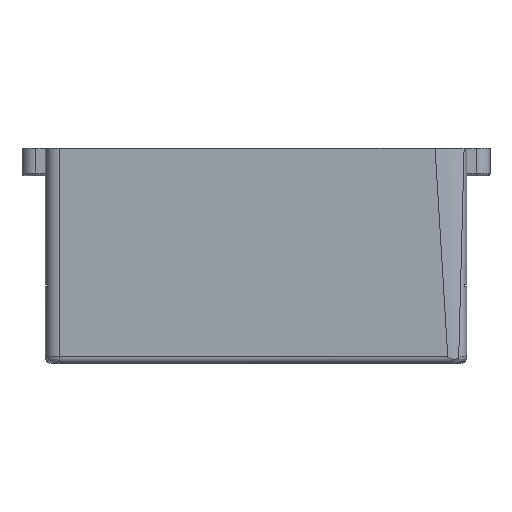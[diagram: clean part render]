
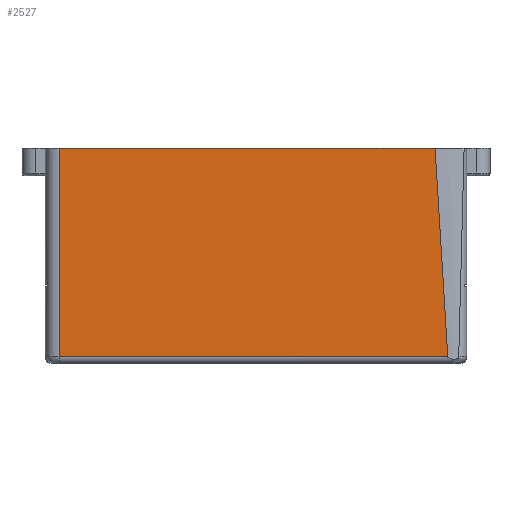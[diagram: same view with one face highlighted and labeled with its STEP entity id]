
A CAD part, top view. The second image highlights one B-rep face of the part: STEP entity #2527.
In plain terms, the highlighted planar face has unit normal (0, 0, 1).
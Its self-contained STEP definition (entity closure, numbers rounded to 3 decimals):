
#303=FACE_OUTER_BOUND('',#451,.T.);
#451=EDGE_LOOP('',(#2145,#2146,#2147,#2148,#2149));
#639=LINE('',#4010,#883);
#672=LINE('',#4135,#916);
#691=LINE('',#4183,#935);
#692=LINE('',#4185,#936);
#693=LINE('',#4186,#937);
#883=VECTOR('',#3249,10.);
#916=VECTOR('',#3364,10.);
#935=VECTOR('',#3417,10.);
#936=VECTOR('',#3418,10.);
#937=VECTOR('',#3419,10.);
#1147=VERTEX_POINT('',#4008);
#1148=VERTEX_POINT('',#4009);
#1186=VERTEX_POINT('',#4121);
#1187=VERTEX_POINT('',#4134);
#1200=VERTEX_POINT('',#4184);
#1453=EDGE_CURVE('',#1147,#1148,#639,.T.);
#1509=EDGE_CURVE('',#1186,#1187,#672,.T.);
#1534=EDGE_CURVE('',#1187,#1148,#691,.T.);
#1535=EDGE_CURVE('',#1186,#1200,#692,.T.);
#1536=EDGE_CURVE('',#1200,#1147,#693,.T.);
#2145=ORIENTED_EDGE('',*,*,#1453,.T.);
#2146=ORIENTED_EDGE('',*,*,#1534,.F.);
#2147=ORIENTED_EDGE('',*,*,#1509,.F.);
#2148=ORIENTED_EDGE('',*,*,#1535,.T.);
#2149=ORIENTED_EDGE('',*,*,#1536,.T.);
#2407=PLANE('',#2759);
#2527=ADVANCED_FACE('',(#303),#2407,.T.);
#2759=AXIS2_PLACEMENT_3D('',#4182,#3415,#3416);
#3249=DIRECTION('',(-1.,0.,0.));
#3364=DIRECTION('',(-1.,0.,0.));
#3415=DIRECTION('center_axis',(0.,0.,1.));
#3416=DIRECTION('ref_axis',(1.,0.,0.));
#3417=DIRECTION('',(0.,1.,0.));
#3418=DIRECTION('',(-0.061,0.998,0.));
#3419=DIRECTION('',(-1.,0.,0.));
#4008=CARTESIAN_POINT('',(10.752,33.,33.));
#4009=CARTESIAN_POINT('',(3.,33.,33.));
#4010=CARTESIAN_POINT('',(51.376,33.,33.));
#4121=CARTESIAN_POINT('',(87.876,-12.5,33.));
#4134=CARTESIAN_POINT('',(3.,-12.5,33.));
#4135=CARTESIAN_POINT('',(69.,-12.5,33.));
#4182=CARTESIAN_POINT('Origin',(92.,0.,33.));
#4183=CARTESIAN_POINT('',(3.,0.,33.));
#4184=CARTESIAN_POINT('',(85.107,33.,33.));
#4185=CARTESIAN_POINT('',(87.196,-1.33,33.));
#4186=CARTESIAN_POINT('',(92.,33.,33.));
